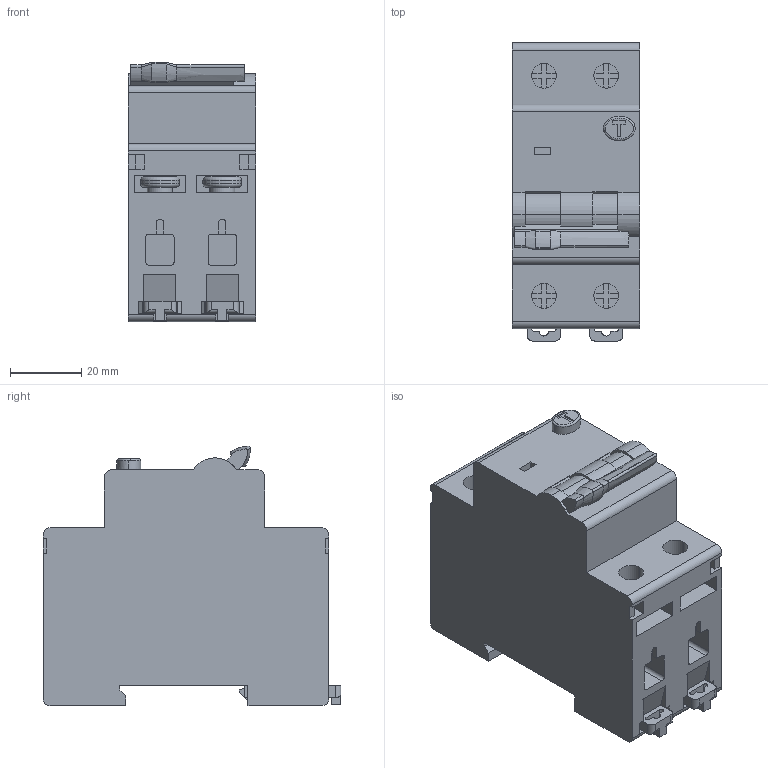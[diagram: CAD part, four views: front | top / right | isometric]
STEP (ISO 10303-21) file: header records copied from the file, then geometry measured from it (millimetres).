
FILE_DESCRIPTION (( 'STEP AP214' ), '1' );
FILE_NAME ('Aardlekautomaat 1P+N (2MOD).STEP', '2026-02-06T08:20:40', ( '' ), ( '' ), 'SwSTEP 2.0', 'SolidWorks 2025', '' );
FILE_SCHEMA (( 'AUTOMOTIVE_DESIGN' ));
Length unit declared in the file: millimetre
Products named in the file (3): Aardlekautomaat 2P (2MOD); Lipje algemeen 2; Aardlekautomaat 1P+N (2MOD)
Assembly tree (3 placements, depth 2):
  Aardlekautomaat 1P+N (2MOD)
    Aardlekautomaat 2P (2MOD)
    Lipje algemeen 2  x2
Bounding box: 35.7 x 83.65 x 72.86 mm (x, y, z)
Volume: 154975.6 mm3; surface area: 29514.7 mm2
Topology: 3 solids, 4 shells, 482 faces, 1369 edges, 916 vertices
Faces by surface type: plane 337, cylinder 117, torus 16, bspline 12
Entity records: 14474 total; most frequent: CARTESIAN_POINT 3253, ORIENTED_EDGE 2416, DIRECTION 2184, EDGE_CURVE 1208, VECTOR 910, LINE 910, VERTEX_POINT 810, AXIS2_PLACEMENT_3D 637
